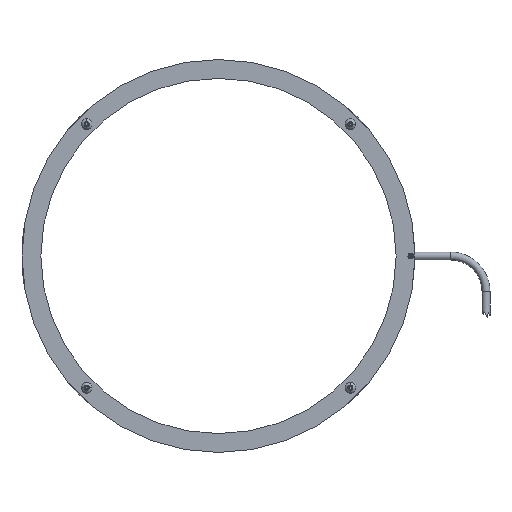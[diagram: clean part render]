
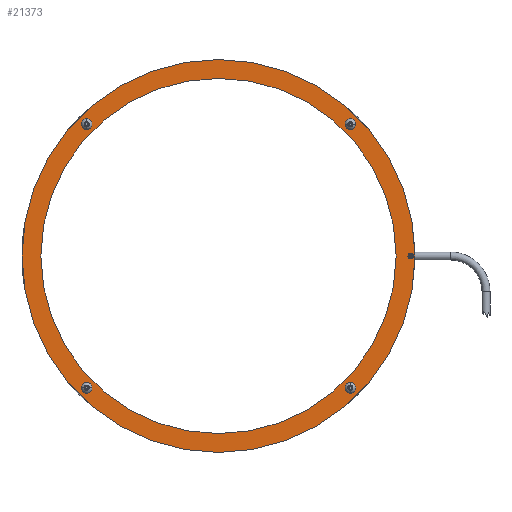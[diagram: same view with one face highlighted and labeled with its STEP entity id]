
A CAD part, front view. The second image highlights one B-rep face of the part: STEP entity #21373.
In plain terms, the highlighted planar face has unit normal (0, -1, 0).
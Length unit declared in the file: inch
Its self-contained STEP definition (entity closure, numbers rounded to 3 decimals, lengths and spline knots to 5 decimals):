
#494 = ORIENTED_EDGE ( 'NONE', *, *, #18476, .F. ) ;
#748 = DIRECTION ( 'NONE',  ( 0., 1., 0. ) ) ;
#794 = CARTESIAN_POINT ( 'NONE',  ( -3.71231, 0., -3.77727 ) ) ;
#941 = DIRECTION ( 'NONE',  ( 0., -1., 0. ) ) ;
#1123 = EDGE_CURVE ( 'NONE', #21962, #3245, #17221, .T. ) ;
#1138 = AXIS2_PLACEMENT_3D ( 'NONE', #24000, #23717, #10270 ) ;
#1243 = FACE_BOUND ( 'NONE', #9391, .T. ) ;
#1549 = EDGE_LOOP ( 'NONE', ( #20946, #4446 ) ) ;
#1552 = CIRCLE ( 'NONE', #11490, 0.06496 ) ;
#1573 = VERTEX_POINT ( 'NONE', #18741 ) ;
#1594 = CIRCLE ( 'NONE', #21352, 0.0795 ) ;
#1722 = CARTESIAN_POINT ( 'NONE',  ( 0., 0., 0. ) ) ;
#1880 = EDGE_CURVE ( 'NONE', #20982, #6910, #21778, .T. ) ;
#1904 = CIRCLE ( 'NONE', #20817, 0.0795 ) ;
#2118 = EDGE_CURVE ( 'NONE', #12452, #22565, #10524, .T. ) ;
#2193 = DIRECTION ( 'NONE',  ( 0., 1., 0. ) ) ;
#2621 = EDGE_CURVE ( 'NONE', #11438, #17516, #3036, .T. ) ;
#2997 = DIRECTION ( 'NONE',  ( 0., 0., 1. ) ) ;
#3036 = CIRCLE ( 'NONE', #8340, 0.06496 ) ;
#3245 = VERTEX_POINT ( 'NONE', #18936 ) ;
#3891 = CARTESIAN_POINT ( 'NONE',  ( -3.71231, 0., -3.71231 ) ) ;
#3965 = CIRCLE ( 'NONE', #28400, 0.06496 ) ;
#4446 = ORIENTED_EDGE ( 'NONE', *, *, #28472, .F. ) ;
#4846 = AXIS2_PLACEMENT_3D ( 'NONE', #8111, #17168, #5940 ) ;
#5439 = EDGE_LOOP ( 'NONE', ( #15371, #17021 ) ) ;
#5932 = CARTESIAN_POINT ( 'NONE',  ( -3.71231, 0., -3.71231 ) ) ;
#5940 = DIRECTION ( 'NONE',  ( 0., 0., -1. ) ) ;
#6085 = EDGE_LOOP ( 'NONE', ( #27495, #13385 ) ) ;
#6117 = DIRECTION ( 'NONE',  ( 0., -1., 0. ) ) ;
#6162 = CARTESIAN_POINT ( 'NONE',  ( 3.71231, 0., -3.64735 ) ) ;
#6168 = PLANE ( 'NONE',  #16723 ) ;
#6202 = CIRCLE ( 'NONE', #26985, 0.06496 ) ;
#6271 = CARTESIAN_POINT ( 'NONE',  ( 3.71231, 0., 3.64735 ) ) ;
#6585 = EDGE_CURVE ( 'NONE', #11167, #1573, #1552, .T. ) ;
#6663 = AXIS2_PLACEMENT_3D ( 'NONE', #1722, #15054, #12784 ) ;
#6844 = FACE_BOUND ( 'NONE', #13951, .T. ) ;
#6910 = VERTEX_POINT ( 'NONE', #9407 ) ;
#7425 = CARTESIAN_POINT ( 'NONE',  ( -3.71231, 0., 3.71231 ) ) ;
#8111 = CARTESIAN_POINT ( 'NONE',  ( 3.71231, 0., 3.71231 ) ) ;
#8197 = DIRECTION ( 'NONE',  ( 0., 0., -1. ) ) ;
#8340 = AXIS2_PLACEMENT_3D ( 'NONE', #5932, #6117, #8197 ) ;
#8423 = CIRCLE ( 'NONE', #1138, 0.06496 ) ;
#8456 = CARTESIAN_POINT ( 'NONE',  ( 3.71231, 0., 3.71231 ) ) ;
#8514 = EDGE_LOOP ( 'NONE', ( #17586, #17258 ) ) ;
#8804 = DIRECTION ( 'NONE',  ( 0., -1., 0. ) ) ;
#8816 = CARTESIAN_POINT ( 'NONE',  ( -3.71231, 0., 3.77727 ) ) ;
#8820 = CARTESIAN_POINT ( 'NONE',  ( 0., 0., 0. ) ) ;
#9078 = DIRECTION ( 'NONE',  ( 0., 1., 0. ) ) ;
#9391 = EDGE_LOOP ( 'NONE', ( #24783, #14505 ) ) ;
#9407 = CARTESIAN_POINT ( 'NONE',  ( 0., 0., -5. ) ) ;
#10270 = DIRECTION ( 'NONE',  ( 0., 0., -1. ) ) ;
#10524 = CIRCLE ( 'NONE', #18902, 0.06496 ) ;
#10921 = CIRCLE ( 'NONE', #4846, 0.06496 ) ;
#11066 = DIRECTION ( 'NONE',  ( 0., 0., -1. ) ) ;
#11100 = DIRECTION ( 'NONE',  ( 0., 0., 1. ) ) ;
#11167 = VERTEX_POINT ( 'NONE', #6271 ) ;
#11438 = VERTEX_POINT ( 'NONE', #25164 ) ;
#11490 = AXIS2_PLACEMENT_3D ( 'NONE', #8456, #22114, #26327 ) ;
#12175 = VERTEX_POINT ( 'NONE', #26115 ) ;
#12452 = VERTEX_POINT ( 'NONE', #14024 ) ;
#12548 = DIRECTION ( 'NONE',  ( 0., -1., 0. ) ) ;
#12612 = EDGE_CURVE ( 'NONE', #25430, #23276, #1904, .T. ) ;
#12784 = DIRECTION ( 'NONE',  ( 0., 0., 1. ) ) ;
#12846 = CIRCLE ( 'NONE', #27718, 5.53125 ) ;
#12873 = FACE_BOUND ( 'NONE', #5439, .T. ) ;
#12924 = CARTESIAN_POINT ( 'NONE',  ( -3.71231, 0., 3.71231 ) ) ;
#13377 = DIRECTION ( 'NONE',  ( 0., 0., -1. ) ) ;
#13385 = ORIENTED_EDGE ( 'NONE', *, *, #22091, .F. ) ;
#13432 = ORIENTED_EDGE ( 'NONE', *, *, #17078, .F. ) ;
#13951 = EDGE_LOOP ( 'NONE', ( #19315, #21371 ) ) ;
#14024 = CARTESIAN_POINT ( 'NONE',  ( 3.71231, 0., -3.77727 ) ) ;
#14266 = CARTESIAN_POINT ( 'NONE',  ( 0., 0., 0. ) ) ;
#14505 = ORIENTED_EDGE ( 'NONE', *, *, #25325, .F. ) ;
#15054 = DIRECTION ( 'NONE',  ( 0., 1., 0. ) ) ;
#15371 = ORIENTED_EDGE ( 'NONE', *, *, #20073, .T. ) ;
#15514 = DIRECTION ( 'NONE',  ( 0., 1., 0. ) ) ;
#15786 = DIRECTION ( 'NONE',  ( 0., 0., -1. ) ) ;
#16590 = DIRECTION ( 'NONE',  ( 0., 0., -1. ) ) ;
#16696 = DIRECTION ( 'NONE',  ( 0., -1., 0. ) ) ;
#16708 = DIRECTION ( 'NONE',  ( 0., 0., -1. ) ) ;
#16723 = AXIS2_PLACEMENT_3D ( 'NONE', #26870, #15514, #29061 ) ;
#17021 = ORIENTED_EDGE ( 'NONE', *, *, #1880, .T. ) ;
#17053 = DIRECTION ( 'NONE',  ( 0., 0., -1. ) ) ;
#17078 = EDGE_CURVE ( 'NONE', #12175, #24199, #6202, .T. ) ;
#17096 = FACE_BOUND ( 'NONE', #27220, .T. ) ;
#17168 = DIRECTION ( 'NONE',  ( 0., -1., 0. ) ) ;
#17221 = CIRCLE ( 'NONE', #6663, 5.53125 ) ;
#17252 = AXIS2_PLACEMENT_3D ( 'NONE', #14266, #748, #2997 ) ;
#17258 = ORIENTED_EDGE ( 'NONE', *, *, #24761, .F. ) ;
#17328 = CARTESIAN_POINT ( 'NONE',  ( 0., 0., 5. ) ) ;
#17516 = VERTEX_POINT ( 'NONE', #794 ) ;
#17554 = CIRCLE ( 'NONE', #22797, 0.06496 ) ;
#17586 = ORIENTED_EDGE ( 'NONE', *, *, #6585, .F. ) ;
#17726 = CARTESIAN_POINT ( 'NONE',  ( 5.41325, 0., 0.0795 ) ) ;
#18476 = EDGE_CURVE ( 'NONE', #24199, #12175, #3965, .T. ) ;
#18741 = CARTESIAN_POINT ( 'NONE',  ( 3.71231, 0., 3.77727 ) ) ;
#18844 = FACE_OUTER_BOUND ( 'NONE', #6085, .T. ) ;
#18902 = AXIS2_PLACEMENT_3D ( 'NONE', #26946, #8804, #15786 ) ;
#18936 = CARTESIAN_POINT ( 'NONE',  ( 0., 0., 5.53125 ) ) ;
#19315 = ORIENTED_EDGE ( 'NONE', *, *, #25360, .F. ) ;
#20073 = EDGE_CURVE ( 'NONE', #6910, #20982, #28136, .T. ) ;
#20463 = DIRECTION ( 'NONE',  ( 0., 0., 1. ) ) ;
#20578 = FACE_BOUND ( 'NONE', #1549, .T. ) ;
#20817 = AXIS2_PLACEMENT_3D ( 'NONE', #24331, #26662, #11066 ) ;
#20946 = ORIENTED_EDGE ( 'NONE', *, *, #12612, .F. ) ;
#20982 = VERTEX_POINT ( 'NONE', #17328 ) ;
#21352 = AXIS2_PLACEMENT_3D ( 'NONE', #27985, #941, #16708 ) ;
#21371 = ORIENTED_EDGE ( 'NONE', *, *, #2621, .F. ) ;
#21373 = ADVANCED_FACE ( 'NONE', ( #20578, #1243, #6844, #17096, #24111, #18844, #12873 ), #6168, .F. ) ;
#21778 = CIRCLE ( 'NONE', #17252, 5. ) ;
#21926 = CARTESIAN_POINT ( 'NONE',  ( 5.41325, 0., -0.0795 ) ) ;
#21962 = VERTEX_POINT ( 'NONE', #24609 ) ;
#22091 = EDGE_CURVE ( 'NONE', #3245, #21962, #12846, .T. ) ;
#22114 = DIRECTION ( 'NONE',  ( 0., -1., 0. ) ) ;
#22481 = AXIS2_PLACEMENT_3D ( 'NONE', #8820, #2193, #11100 ) ;
#22565 = VERTEX_POINT ( 'NONE', #6162 ) ;
#22631 = CARTESIAN_POINT ( 'NONE',  ( 0., 0., 0. ) ) ;
#22797 = AXIS2_PLACEMENT_3D ( 'NONE', #3891, #26518, #13377 ) ;
#23276 = VERTEX_POINT ( 'NONE', #17726 ) ;
#23717 = DIRECTION ( 'NONE',  ( 0., -1., 0. ) ) ;
#24000 = CARTESIAN_POINT ( 'NONE',  ( 3.71231, 0., -3.71231 ) ) ;
#24111 = FACE_BOUND ( 'NONE', #8514, .T. ) ;
#24199 = VERTEX_POINT ( 'NONE', #8816 ) ;
#24331 = CARTESIAN_POINT ( 'NONE',  ( 5.41325, 0., 0. ) ) ;
#24609 = CARTESIAN_POINT ( 'NONE',  ( 0., 0., -5.53125 ) ) ;
#24761 = EDGE_CURVE ( 'NONE', #1573, #11167, #10921, .T. ) ;
#24783 = ORIENTED_EDGE ( 'NONE', *, *, #2118, .F. ) ;
#25164 = CARTESIAN_POINT ( 'NONE',  ( -3.71231, 0., -3.64735 ) ) ;
#25325 = EDGE_CURVE ( 'NONE', #22565, #12452, #8423, .T. ) ;
#25360 = EDGE_CURVE ( 'NONE', #17516, #11438, #17554, .T. ) ;
#25430 = VERTEX_POINT ( 'NONE', #21926 ) ;
#26115 = CARTESIAN_POINT ( 'NONE',  ( -3.71231, 0., 3.64735 ) ) ;
#26327 = DIRECTION ( 'NONE',  ( 0., 0., -1. ) ) ;
#26518 = DIRECTION ( 'NONE',  ( 0., -1., 0. ) ) ;
#26662 = DIRECTION ( 'NONE',  ( 0., -1., 0. ) ) ;
#26870 = CARTESIAN_POINT ( 'NONE',  ( 0., 0., 0. ) ) ;
#26946 = CARTESIAN_POINT ( 'NONE',  ( 3.71231, 0., -3.71231 ) ) ;
#26985 = AXIS2_PLACEMENT_3D ( 'NONE', #7425, #16696, #16590 ) ;
#27220 = EDGE_LOOP ( 'NONE', ( #13432, #494 ) ) ;
#27495 = ORIENTED_EDGE ( 'NONE', *, *, #1123, .F. ) ;
#27718 = AXIS2_PLACEMENT_3D ( 'NONE', #22631, #9078, #20463 ) ;
#27985 = CARTESIAN_POINT ( 'NONE',  ( 5.41325, 0., 0. ) ) ;
#28136 = CIRCLE ( 'NONE', #22481, 5. ) ;
#28400 = AXIS2_PLACEMENT_3D ( 'NONE', #12924, #12548, #17053 ) ;
#28472 = EDGE_CURVE ( 'NONE', #23276, #25430, #1594, .T. ) ;
#29061 = DIRECTION ( 'NONE',  ( 0., 0., 1. ) ) ;
